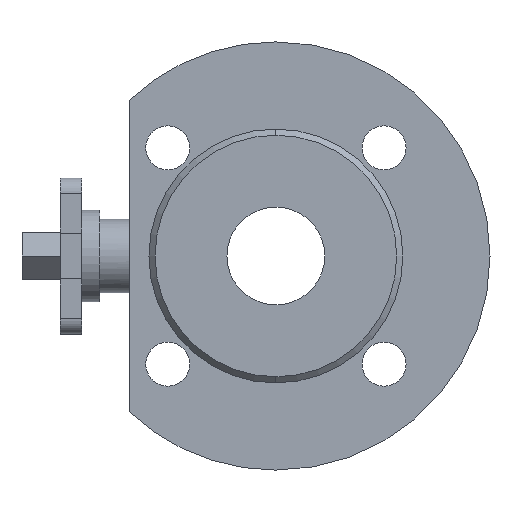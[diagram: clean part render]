
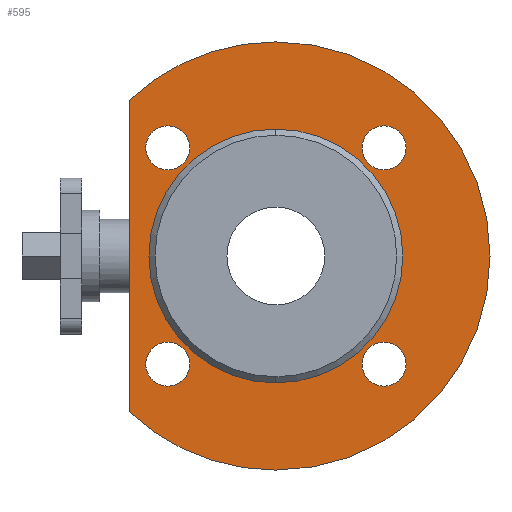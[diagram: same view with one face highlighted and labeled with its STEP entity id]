
A CAD part, left-side view. The second image highlights one B-rep face of the part: STEP entity #595.
In plain terms, the highlighted planar face has unit normal (-1, 0, 0).
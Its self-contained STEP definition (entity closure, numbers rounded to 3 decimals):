
#25 = DIRECTION ( 'NONE',  ( 0., 0., -1. ) ) ;
#38 = EDGE_CURVE ( 'NONE', #2056, #801, #1056, .T. ) ;
#41 = DIRECTION ( 'NONE',  ( 0., 0., -1. ) ) ;
#49 = ORIENTED_EDGE ( 'NONE', *, *, #1111, .F. ) ;
#108 = AXIS2_PLACEMENT_3D ( 'NONE', #1745, #396, #1976 ) ;
#126 = VERTEX_POINT ( 'NONE', #2349 ) ;
#152 = EDGE_LOOP ( 'NONE', ( #2568, #49 ) ) ;
#205 = VERTEX_POINT ( 'NONE', #966 ) ;
#224 = DIRECTION ( 'NONE',  ( 0., 0., -1. ) ) ;
#234 = FACE_BOUND ( 'NONE', #596, .T. ) ;
#270 = EDGE_CURVE ( 'NONE', #126, #558, #2215, .T. ) ;
#273 = VERTEX_POINT ( 'NONE', #2296 ) ;
#297 = DIRECTION ( 'NONE',  ( -1., 0., 0. ) ) ;
#310 = FACE_BOUND ( 'NONE', #1646, .T. ) ;
#318 = CIRCLE ( 'NONE', #108, 7.2 ) ;
#337 = CARTESIAN_POINT ( 'NONE',  ( -24.5, -35.355, -28.155 ) ) ;
#396 = DIRECTION ( 'NONE',  ( -1., 0., 0. ) ) ;
#406 = VERTEX_POINT ( 'NONE', #2645 ) ;
#413 = EDGE_LOOP ( 'NONE', ( #452, #2074 ) ) ;
#422 = EDGE_CURVE ( 'NONE', #558, #126, #1198, .T. ) ;
#452 = ORIENTED_EDGE ( 'NONE', *, *, #1984, .F. ) ;
#486 = CARTESIAN_POINT ( 'NONE',  ( -24.5, 48., 0. ) ) ;
#503 = PLANE ( 'NONE',  #1318 ) ;
#513 = ORIENTED_EDGE ( 'NONE', *, *, #422, .F. ) ;
#557 = CIRCLE ( 'NONE', #1992, 7.2 ) ;
#558 = VERTEX_POINT ( 'NONE', #2503 ) ;
#595 = ADVANCED_FACE ( 'NONE', ( #1448, #2621, #840, #310, #234, #2554 ), #503, .F. ) ;
#596 = EDGE_LOOP ( 'NONE', ( #1831, #1914 ) ) ;
#606 = EDGE_CURVE ( 'NONE', #205, #273, #771, .T. ) ;
#609 = AXIS2_PLACEMENT_3D ( 'NONE', #1958, #615, #2188 ) ;
#615 = DIRECTION ( 'NONE',  ( -1., 0., 0. ) ) ;
#626 = CIRCLE ( 'NONE', #1351, 41.5 ) ;
#642 = CIRCLE ( 'NONE', #2492, 70. ) ;
#669 = ORIENTED_EDGE ( 'NONE', *, *, #270, .F. ) ;
#693 = CARTESIAN_POINT ( 'NONE',  ( -24.5, 35.355, 28.155 ) ) ;
#695 = DIRECTION ( 'NONE',  ( -1., 0., 0. ) ) ;
#708 = DIRECTION ( 'NONE',  ( -1., 0., 0. ) ) ;
#711 = CIRCLE ( 'NONE', #1490, 7.2 ) ;
#727 = DIRECTION ( 'NONE',  ( -1., 0., 0. ) ) ;
#742 = CARTESIAN_POINT ( 'NONE',  ( -24.5, 0., 0. ) ) ;
#766 = VERTEX_POINT ( 'NONE', #2148 ) ;
#771 = CIRCLE ( 'NONE', #862, 41.5 ) ;
#801 = VERTEX_POINT ( 'NONE', #1712 ) ;
#825 = AXIS2_PLACEMENT_3D ( 'NONE', #2719, #1399, #25 ) ;
#840 = FACE_BOUND ( 'NONE', #413, .T. ) ;
#862 = AXIS2_PLACEMENT_3D ( 'NONE', #742, #2314, #975 ) ;
#864 = CARTESIAN_POINT ( 'NONE',  ( -24.5, -35.355, 35.355 ) ) ;
#865 = EDGE_CURVE ( 'NONE', #2112, #2185, #1195, .T. ) ;
#884 = CARTESIAN_POINT ( 'NONE',  ( -24.5, 35.355, 35.355 ) ) ;
#895 = CARTESIAN_POINT ( 'NONE',  ( -24.5, 35.355, 42.555 ) ) ;
#916 = CARTESIAN_POINT ( 'NONE',  ( -24.5, -35.355, 35.355 ) ) ;
#935 = ORIENTED_EDGE ( 'NONE', *, *, #2139, .T. ) ;
#966 = CARTESIAN_POINT ( 'NONE',  ( -24.5, 0., -41.5 ) ) ;
#975 = DIRECTION ( 'NONE',  ( 0., 0., 1. ) ) ;
#999 = CARTESIAN_POINT ( 'NONE',  ( -24.5, 0., 0. ) ) ;
#1056 = LINE ( 'NONE', #486, #2184 ) ;
#1074 = EDGE_CURVE ( 'NONE', #273, #205, #626, .T. ) ;
#1081 = ORIENTED_EDGE ( 'NONE', *, *, #38, .T. ) ;
#1097 = DIRECTION ( 'NONE',  ( 0., -1., 0. ) ) ;
#1109 = DIRECTION ( 'NONE',  ( 0., 0., 1. ) ) ;
#1111 = EDGE_CURVE ( 'NONE', #1376, #1239, #557, .T. ) ;
#1175 = EDGE_CURVE ( 'NONE', #406, #2056, #2208, .T. ) ;
#1177 = CARTESIAN_POINT ( 'NONE',  ( -24.5, 35.355, -28.155 ) ) ;
#1195 = CIRCLE ( 'NONE', #2162, 7.2 ) ;
#1198 = CIRCLE ( 'NONE', #2274, 7.2 ) ;
#1225 = DIRECTION ( 'NONE',  ( 0., 0., 1. ) ) ;
#1239 = VERTEX_POINT ( 'NONE', #337 ) ;
#1273 = ORIENTED_EDGE ( 'NONE', *, *, #865, .F. ) ;
#1297 = DIRECTION ( 'NONE',  ( -1., 0., 0. ) ) ;
#1318 = AXIS2_PLACEMENT_3D ( 'NONE', #2081, #1420, #41 ) ;
#1351 = AXIS2_PLACEMENT_3D ( 'NONE', #2046, #695, #2271 ) ;
#1356 = DIRECTION ( 'NONE',  ( -1., 0., 0. ) ) ;
#1376 = VERTEX_POINT ( 'NONE', #1517 ) ;
#1382 = CIRCLE ( 'NONE', #609, 7.2 ) ;
#1399 = DIRECTION ( 'NONE',  ( -1., 0., 0. ) ) ;
#1420 = DIRECTION ( 'NONE',  ( 1., 0., 0. ) ) ;
#1448 = FACE_BOUND ( 'NONE', #1603, .T. ) ;
#1490 = AXIS2_PLACEMENT_3D ( 'NONE', #884, #2443, #1109 ) ;
#1517 = CARTESIAN_POINT ( 'NONE',  ( -24.5, -35.355, -42.555 ) ) ;
#1555 = ORIENTED_EDGE ( 'NONE', *, *, #1633, .T. ) ;
#1603 = EDGE_LOOP ( 'NONE', ( #669, #513 ) ) ;
#1605 = CARTESIAN_POINT ( 'NONE',  ( -24.5, 35.355, -42.555 ) ) ;
#1617 = EDGE_LOOP ( 'NONE', ( #935, #1555, #2537, #1081 ) ) ;
#1633 = EDGE_CURVE ( 'NONE', #766, #406, #642, .T. ) ;
#1646 = EDGE_LOOP ( 'NONE', ( #1273, #2858 ) ) ;
#1657 = CARTESIAN_POINT ( 'NONE',  ( -24.5, -35.355, -35.355 ) ) ;
#1712 = CARTESIAN_POINT ( 'NONE',  ( -24.5, 48., -50.951 ) ) ;
#1745 = CARTESIAN_POINT ( 'NONE',  ( -24.5, 35.355, -35.355 ) ) ;
#1831 = ORIENTED_EDGE ( 'NONE', *, *, #606, .F. ) ;
#1885 = DIRECTION ( 'NONE',  ( 0., 0., -1. ) ) ;
#1914 = ORIENTED_EDGE ( 'NONE', *, *, #1074, .F. ) ;
#1958 = CARTESIAN_POINT ( 'NONE',  ( -24.5, 35.355, -35.355 ) ) ;
#1976 = DIRECTION ( 'NONE',  ( 0., 1., 0. ) ) ;
#1984 = EDGE_CURVE ( 'NONE', #2837, #2763, #318, .T. ) ;
#1992 = AXIS2_PLACEMENT_3D ( 'NONE', #1657, #297, #1885 ) ;
#2014 = CIRCLE ( 'NONE', #825, 7.2 ) ;
#2046 = CARTESIAN_POINT ( 'NONE',  ( -24.5, 0., 0. ) ) ;
#2056 = VERTEX_POINT ( 'NONE', #2874 ) ;
#2074 = ORIENTED_EDGE ( 'NONE', *, *, #2516, .F. ) ;
#2076 = CARTESIAN_POINT ( 'NONE',  ( -24.5, 0., 0. ) ) ;
#2081 = CARTESIAN_POINT ( 'NONE',  ( -24.5, 70., 0. ) ) ;
#2088 = EDGE_CURVE ( 'NONE', #2185, #2112, #711, .T. ) ;
#2089 = AXIS2_PLACEMENT_3D ( 'NONE', #2681, #1356, #2912 ) ;
#2112 = VERTEX_POINT ( 'NONE', #895 ) ;
#2139 = EDGE_CURVE ( 'NONE', #801, #766, #2361, .T. ) ;
#2148 = CARTESIAN_POINT ( 'NONE',  ( -24.5, 0., -70. ) ) ;
#2162 = AXIS2_PLACEMENT_3D ( 'NONE', #2630, #1297, #2856 ) ;
#2184 = VECTOR ( 'NONE', #224, 1000. ) ;
#2185 = VERTEX_POINT ( 'NONE', #693 ) ;
#2188 = DIRECTION ( 'NONE',  ( 0., 1., 0. ) ) ;
#2208 = CIRCLE ( 'NONE', #2437, 70. ) ;
#2215 = CIRCLE ( 'NONE', #2478, 7.2 ) ;
#2232 = EDGE_CURVE ( 'NONE', #1239, #1376, #2014, .T. ) ;
#2271 = DIRECTION ( 'NONE',  ( 0., 0., 1. ) ) ;
#2274 = AXIS2_PLACEMENT_3D ( 'NONE', #864, #2434, #1097 ) ;
#2296 = CARTESIAN_POINT ( 'NONE',  ( -24.5, 0., 41.5 ) ) ;
#2304 = DIRECTION ( 'NONE',  ( 0., 0., 1. ) ) ;
#2314 = DIRECTION ( 'NONE',  ( -1., 0., 0. ) ) ;
#2349 = CARTESIAN_POINT ( 'NONE',  ( -24.5, -35.355, 42.555 ) ) ;
#2361 = CIRCLE ( 'NONE', #2089, 70. ) ;
#2434 = DIRECTION ( 'NONE',  ( -1., 0., 0. ) ) ;
#2437 = AXIS2_PLACEMENT_3D ( 'NONE', #999, #2551, #1225 ) ;
#2443 = DIRECTION ( 'NONE',  ( -1., 0., 0. ) ) ;
#2478 = AXIS2_PLACEMENT_3D ( 'NONE', #916, #708, #2925 ) ;
#2492 = AXIS2_PLACEMENT_3D ( 'NONE', #2076, #727, #2304 ) ;
#2503 = CARTESIAN_POINT ( 'NONE',  ( -24.5, -35.355, 28.155 ) ) ;
#2516 = EDGE_CURVE ( 'NONE', #2763, #2837, #1382, .T. ) ;
#2537 = ORIENTED_EDGE ( 'NONE', *, *, #1175, .T. ) ;
#2551 = DIRECTION ( 'NONE',  ( -1., 0., 0. ) ) ;
#2554 = FACE_OUTER_BOUND ( 'NONE', #1617, .T. ) ;
#2568 = ORIENTED_EDGE ( 'NONE', *, *, #2232, .F. ) ;
#2621 = FACE_BOUND ( 'NONE', #152, .T. ) ;
#2630 = CARTESIAN_POINT ( 'NONE',  ( -24.5, 35.355, 35.355 ) ) ;
#2645 = CARTESIAN_POINT ( 'NONE',  ( -24.5, 0., 70. ) ) ;
#2681 = CARTESIAN_POINT ( 'NONE',  ( -24.5, 0., 0. ) ) ;
#2719 = CARTESIAN_POINT ( 'NONE',  ( -24.5, -35.355, -35.355 ) ) ;
#2763 = VERTEX_POINT ( 'NONE', #1605 ) ;
#2837 = VERTEX_POINT ( 'NONE', #1177 ) ;
#2856 = DIRECTION ( 'NONE',  ( 0., 0., 1. ) ) ;
#2858 = ORIENTED_EDGE ( 'NONE', *, *, #2088, .F. ) ;
#2874 = CARTESIAN_POINT ( 'NONE',  ( -24.5, 48., 50.951 ) ) ;
#2912 = DIRECTION ( 'NONE',  ( 0., 0., 1. ) ) ;
#2925 = DIRECTION ( 'NONE',  ( 0., -1., 0. ) ) ;
